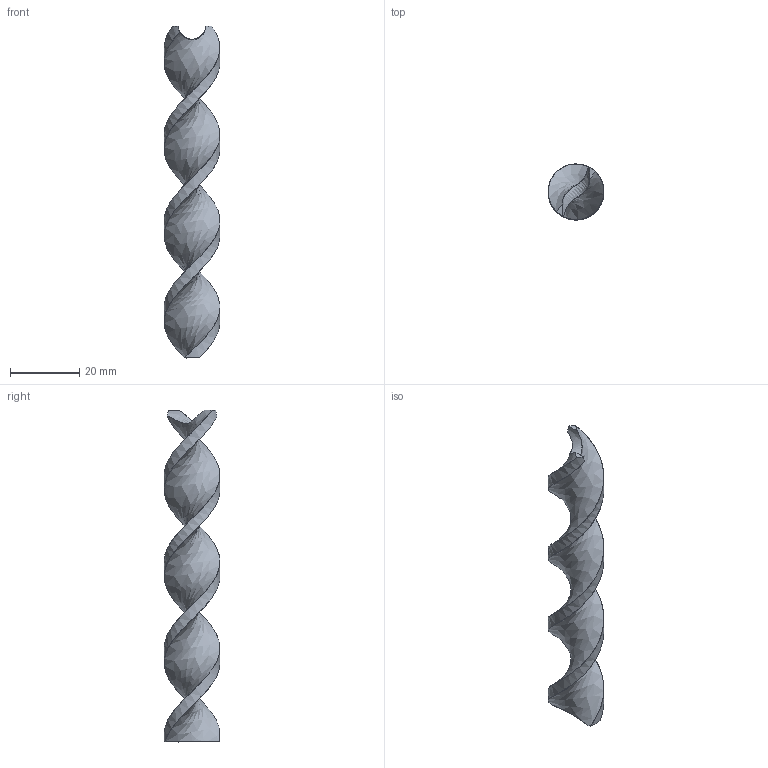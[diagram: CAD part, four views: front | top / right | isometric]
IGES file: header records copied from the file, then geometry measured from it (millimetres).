
Global section: file name: E:\UnigraphicsGraphicData\MISUMI_MOLD-PARTS\NX\3d_wrcbn16-96_00645_r00.igs; native system: NX V5.0; preprocessor: UGS NX IGES V5.0; author: MISUMI; date: 20101115.183655; units: millimetre
Bounding box: 16.14 x 16.14 x 96.02 mm (x, y, z)
Surface area: 4298.3 mm2 (no closed solid volume)
Topology: 0 solids, 0 shells, 8 faces, 50 edges, 50 vertices
Faces by surface type: bspline 8
